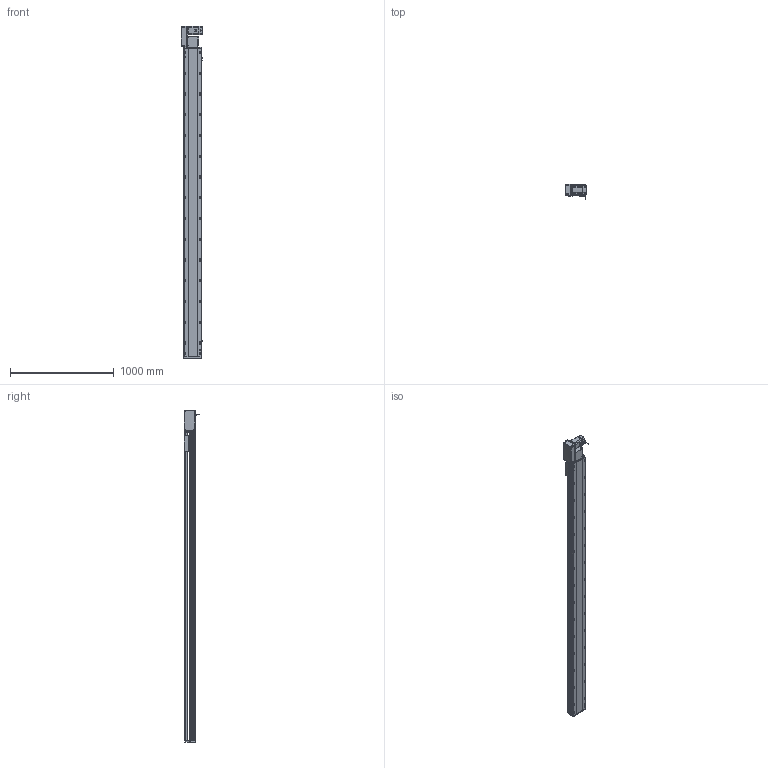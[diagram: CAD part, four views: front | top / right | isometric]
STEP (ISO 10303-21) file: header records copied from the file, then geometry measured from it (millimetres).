
FILE_DESCRIPTION (( 'STEP AP214' ), '1' );
FILE_NAME ('RTB17S-XX-2700-L-M75-C4.STEP', '2025-12-12T00:22:52', ( '' ), ( '' ), 'SwSTEP 2.0', 'SolidWorks 2018', '' );
FILE_SCHEMA (( 'AUTOMOTIVE_DESIGN' ));
Length unit declared in the file: millimetre
Products named in the file (15): RTB17S-L-007奻裔^RTB17S-XX-XX-L-M75-C4; 750W萇儂^RTB17S-XX-XX-L-M75-C4; RTB17-R-011菁釱^RTB17S-XX-XX-L-M75-C4; RTB22S-GY-008-M75--萇儂啣^RTB17S-L-々湍釱蚾饜-750W_RTB17S-XX-XX-L-M75-C4; EE672^RTB17S-XX-XX-L-M75-C4; RTB22S-GY-018P^RTB17S-L-々湍釱蚾饜-750W_RTB17S-XX-XX-L-M75-C4; RTB17S-L-001-耜醱啣^RTB17S-XX-XX-L-M75-C4; RTB17S-L-々湍釱蚾饜-750W^RTB17S-XX-XX-L-M75-C4; RTB22S-GY-005P^RTB17S-L-々湍釱蚾饜-750W_RTB17S-XX-XX-L-M75-C4; RTB17S-賑釱^RTB17S-XX-XX-L-M75-C4; RTB22S-GY-017P^RTB17S-L-々湍釱蚾饜-750W_RTB17S-XX-XX-L-M75-C4; RTB17S-L-004-賑釱^RTB17S-賑釱_RTB17S-XX-XX-L-M75-C4; RTH13-BL-012覜茼え俋离^RTB17S-賑釱_RTB17S-XX-XX-L-M75-C4; RMP17S-L-014-T20-P75--々湍釱^RTB17S-L-々湍釱蚾饜-750W_RTB17S-XX-XX-L-M75-C4; RTB17S-XX-2700-L-M75-C4
Assembly tree (17 placements, depth 3):
  RTB17S-XX-2700-L-M75-C4
    RTB17-R-011菁釱^RTB17S-XX-XX-L-M75-C4
    EE672^RTB17S-XX-XX-L-M75-C4  x3
    RTB17S-L-001-耜醱啣^RTB17S-XX-XX-L-M75-C4
    RTB17S-賑釱^RTB17S-XX-XX-L-M75-C4
      RTB17S-L-004-賑釱^RTB17S-賑釱_RTB17S-XX-XX-L-M75-C4
      RTH13-BL-012覜茼え俋离^RTB17S-賑釱_RTB17S-XX-XX-L-M75-C4
    RTB17S-L-007奻裔^RTB17S-XX-XX-L-M75-C4
    750W萇儂^RTB17S-XX-XX-L-M75-C4
    RTB17S-L-々湍釱蚾饜-750W^RTB17S-XX-XX-L-M75-C4
      RMP17S-L-014-T20-P75--々湍釱^RTB17S-L-々湍釱蚾饜-750W_RTB17S-XX-XX-L-M75-C4
      RTB22S-GY-005P^RTB17S-L-々湍釱蚾饜-750W_RTB17S-XX-XX-L-M75-C4
      RTB22S-GY-017P^RTB17S-L-々湍釱蚾饜-750W_RTB17S-XX-XX-L-M75-C4  x2
      RTB22S-GY-008-M75--萇儂啣^RTB17S-L-々湍釱蚾饜-750W_RTB17S-XX-XX-L-M75-C4
      RTB22S-GY-018P^RTB17S-L-々湍釱蚾饜-750W_RTB17S-XX-XX-L-M75-C4
Bounding box: 210.4 x 152.7 x 3199 mm (x, y, z)
Volume: 22825488 mm3; surface area: 4159978 mm2
Topology: 17 solids, 17 shells, 2233 faces, 6268 edges, 4058 vertices
Faces by surface type: plane 988, cylinder 829, bspline 294, cone 110, sphere 8, torus 4
Entity records: 65014 total; most frequent: CARTESIAN_POINT 19332, ORIENTED_EDGE 9380, DIRECTION 8672, EDGE_CURVE 4690, AXIS2_PLACEMENT_3D 3078, VERTEX_POINT 3062, VECTOR 2516, LINE 2516
